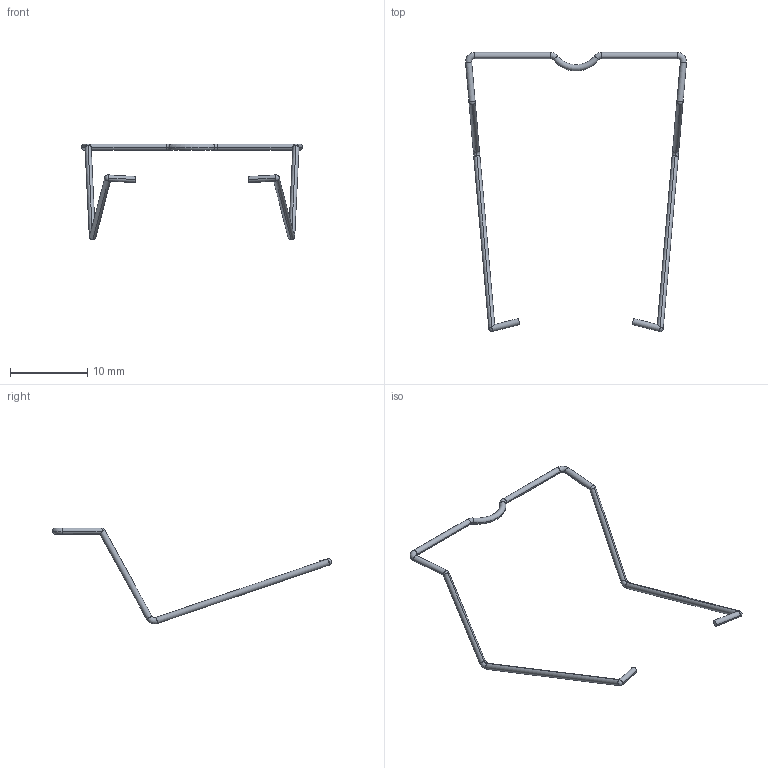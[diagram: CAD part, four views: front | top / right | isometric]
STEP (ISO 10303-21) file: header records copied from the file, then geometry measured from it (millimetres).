
FILE_DESCRIPTION (( 'STEP AP214' ), '1' );
FILE_NAME ('ST36M3C ¿¨»É8.383.610.01SW.STEP', '2025-02-08T02:25:16', ( 'admin' ), ( '' ), 'SwSTEP 2.0', 'SolidWorks 2022', '' );
FILE_SCHEMA (( 'AUTOMOTIVE_DESIGN' ));
Length unit declared in the file: millimetre
Products named in the file (1): ST36M3C 縐銅8.383.610.01SW
Bounding box: 28.65 x 36.19 x 12.43 mm (x, y, z)
Volume: 61.5 mm3; surface area: 308.4 mm2
Topology: 1 solids, 1 shells, 40 faces, 100 edges, 60 vertices
Faces by surface type: cylinder 20, torus 14, sphere 4, plane 2
Entity records: 1196 total; most frequent: DIRECTION 230, CARTESIAN_POINT 221, ORIENTED_EDGE 188, AXIS2_PLACEMENT_3D 105, EDGE_CURVE 94, CIRCLE 64, VERTEX_POINT 56, EDGE_LOOP 40
